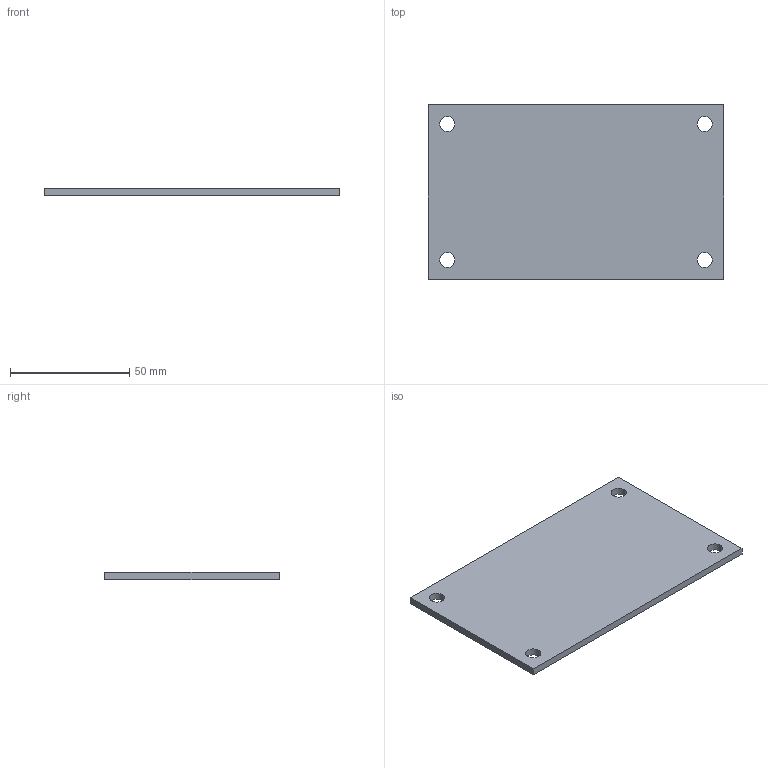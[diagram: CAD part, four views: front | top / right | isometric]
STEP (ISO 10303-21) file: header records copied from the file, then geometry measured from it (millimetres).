
FILE_DESCRIPTION((''),'1');
FILE_NAME('1','2001-04-18T',('jlue'),(''),'PRO/ENGINEER BY PARAMETRIC TECHNOLOGY CORPORATION, 9846','PRO/ENGINEER BY PARAMETRIC TECHNOLOGY CORPORATION, 9846','');
FILE_SCHEMA(('CONFIG_CONTROL_DESIGN'));
Length unit declared in the file: inch
Products named in the file (1): 1
Bounding box: 123.95 x 73.15 x 3.05 mm (x, y, z)
Surface area: 19326.1 mm2 (no closed solid volume)
Topology: 0 solids, 0 shells, 14 faces, 76 edges, 80 vertices
Faces by surface type: cylinder 8, plane 6
Entity records: 440 total; most frequent: DIRECTION 84, COMPOSITE_CURVE_SEGMENT 72, CARTESIAN_POINT 54, TRIMMED_CURVE 40, AXIS2_PLACEMENT_3D 30, VECTOR 24, LINE 24, CIRCLE 16
